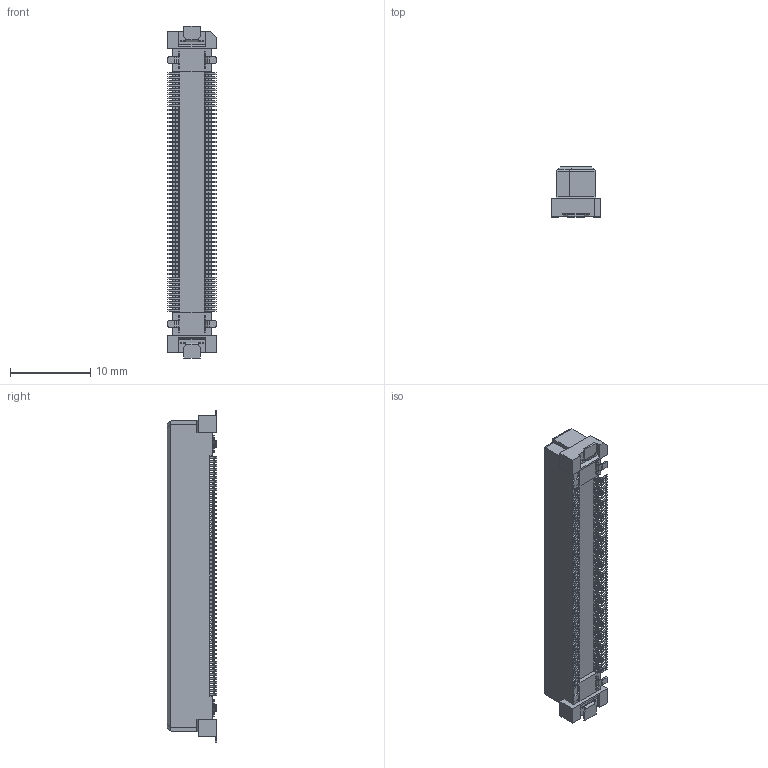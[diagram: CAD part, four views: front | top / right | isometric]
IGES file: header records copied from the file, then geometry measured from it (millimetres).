
Start section: Elysium IGES Interface
Global section: file name: 121HG:\その他\DT関連\DT_CADﾃﾞｰﾀ\DT_3DCAD(客先提出用)\プラグ\DT1XE(電源pin)\-8\DT10E-XXXS-8-T(WEB用)\P3E603_DT10E-120S-8-T.igs; native system: Creo Elements/Direct Modeling 20.6  25-Mar-2023; preprocessor: Creo Element/Direct IGES_3D V2.2; author: Unknown; organization: Unknown; date: 20240313.103707; units: millimetre
Bounding box: 6.2 x 6.18 x 41.4 mm (x, y, z)
Volume: 849.1 mm3; surface area: 1427.6 mm2
Topology: 1 solids, 1 shells, 5483 faces, 14918 edges, 9572 vertices
Faces by surface type: bspline 5483
